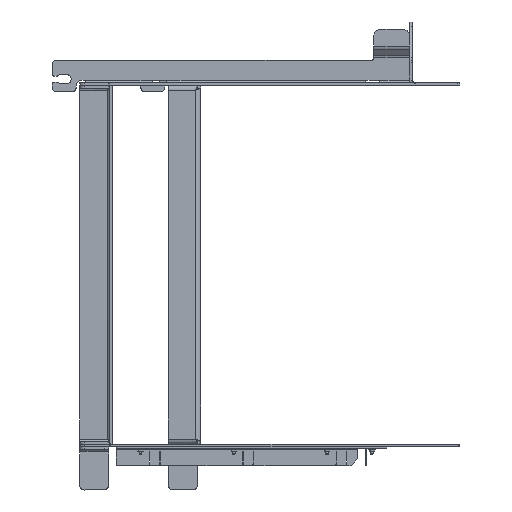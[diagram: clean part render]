
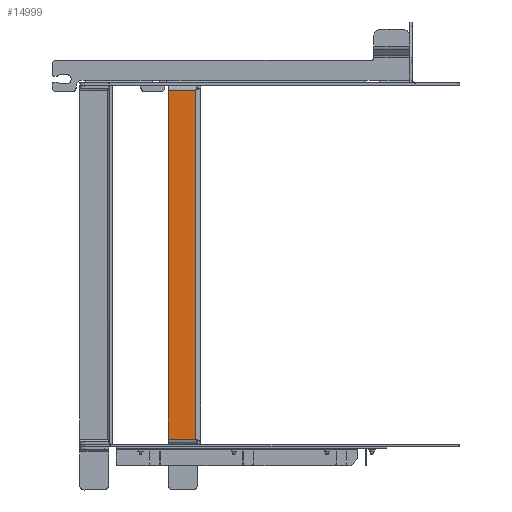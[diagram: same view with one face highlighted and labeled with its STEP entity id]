
A CAD part, left-side view. The second image highlights one B-rep face of the part: STEP entity #14999.
In plain terms, the highlighted planar face has unit normal (-1, 0, 0).
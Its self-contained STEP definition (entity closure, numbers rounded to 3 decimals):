
#1389=LINE('',#23967,#2709);
#1390=LINE('',#23970,#2710);
#1391=LINE('',#23972,#2711);
#1392=LINE('',#23974,#2712);
#1393=LINE('',#23976,#2713);
#1394=LINE('',#23977,#2714);
#2709=VECTOR('',#19136,10.);
#2710=VECTOR('',#19139,10.);
#2711=VECTOR('',#19140,10.);
#2712=VECTOR('',#19141,10.);
#2713=VECTOR('',#19142,10.);
#2714=VECTOR('',#19143,10.);
#3828=FACE_OUTER_BOUND('',#4696,.T.);
#4696=EDGE_LOOP('',(#11741,#11742,#11743,#11744,#11745,#11746));
#6539=VERTEX_POINT('',#23960);
#6542=VERTEX_POINT('',#23965);
#6543=VERTEX_POINT('',#23969);
#6544=VERTEX_POINT('',#23971);
#6545=VERTEX_POINT('',#23973);
#6546=VERTEX_POINT('',#23975);
#8362=EDGE_CURVE('',#6542,#6539,#1389,.T.);
#8363=EDGE_CURVE('',#6542,#6543,#1390,.T.);
#8364=EDGE_CURVE('',#6544,#6543,#1391,.T.);
#8365=EDGE_CURVE('',#6544,#6545,#1392,.T.);
#8366=EDGE_CURVE('',#6546,#6545,#1393,.T.);
#8367=EDGE_CURVE('',#6546,#6539,#1394,.T.);
#11741=ORIENTED_EDGE('',*,*,#8362,.F.);
#11742=ORIENTED_EDGE('',*,*,#8363,.T.);
#11743=ORIENTED_EDGE('',*,*,#8364,.F.);
#11744=ORIENTED_EDGE('',*,*,#8365,.T.);
#11745=ORIENTED_EDGE('',*,*,#8366,.F.);
#11746=ORIENTED_EDGE('',*,*,#8367,.T.);
#14161=PLANE('',#16262);
#14999=ADVANCED_FACE('',(#3828),#14161,.F.);
#16262=AXIS2_PLACEMENT_3D('',#23968,#19137,#19138);
#19136=DIRECTION('',(0.,-0.707,-0.707));
#19137=DIRECTION('center_axis',(1.,0.,0.));
#19138=DIRECTION('ref_axis',(0.,0.,
-1.));
#19139=DIRECTION('',(0.,1.,0.));
#19140=DIRECTION('',(0.,0.,1.));
#19141=DIRECTION('',(0.,-1.,0.));
#19142=DIRECTION('',(0.,0.707,-0.707));
#19143=DIRECTION('',(0.,0.,1.));
#23960=CARTESIAN_POINT('',(856.,367.999,-7.141));
#23965=CARTESIAN_POINT('',(856.,368.14,-7.));
#23967=CARTESIAN_POINT('',(856.,311.139,-64.001));
#23968=CARTESIAN_POINT('Origin',(856.,383.348,-250.071));
#23969=CARTESIAN_POINT('',(856.,405.999,-7.));
#23970=CARTESIAN_POINT('',(856.,394.674,-7.));
#23971=CARTESIAN_POINT('',(856.,405.999,-493.142));
#23972=CARTESIAN_POINT('',(856.,405.999,-500.142));
#23973=CARTESIAN_POINT('',(856.,368.14,-493.142));
#23974=CARTESIAN_POINT('',(856.,394.674,-493.142));
#23975=CARTESIAN_POINT('',(856.,367.999,-493.001));
#23976=CARTESIAN_POINT('',(856.,311.139,-436.141));
#23977=CARTESIAN_POINT('',(856.,367.999,-250.071));
